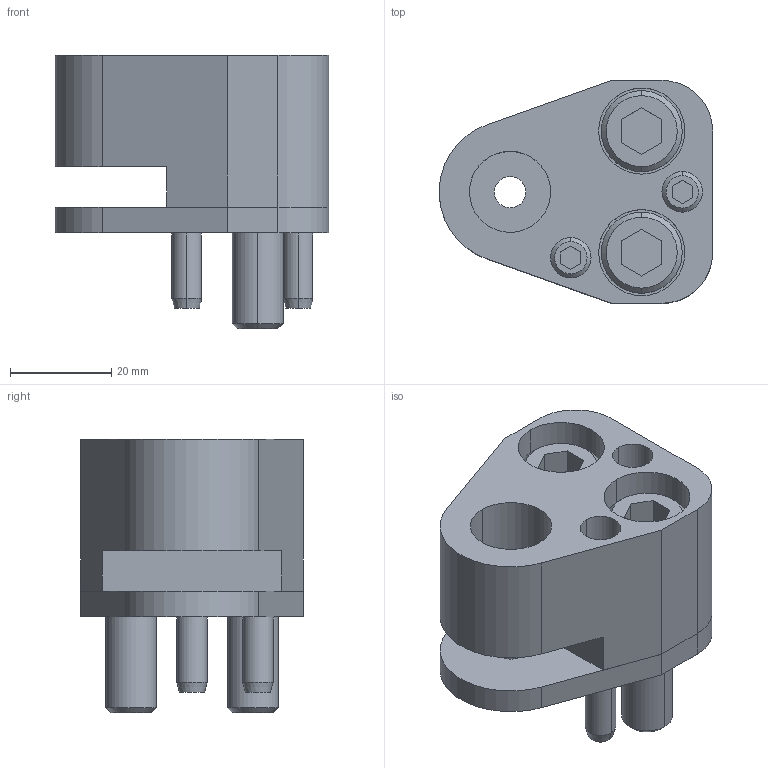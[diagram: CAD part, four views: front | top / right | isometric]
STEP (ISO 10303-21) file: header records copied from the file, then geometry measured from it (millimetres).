
FILE_DESCRIPTION(/* description */ (''),/* implementation_level */ '2;1');
FILE_NAME(/* name */ '3d_ap-fp16_02883_r00.stp',/* time_stamp */ '2011-01-10T14:17:45+09:00',/* author */ ('MISUMI'),/* organization */ (''),/* preprocessor_version */ 'ST-DEVELOPER v11',/* originating_system */ 'UGS - NX 5.0',/* authorisation */ '');
FILE_SCHEMA (('CONFIG_CONTROL_DESIGN'));
Length unit declared in the file: millimetre
Products named in the file (1): 3d_ap-fp16_02883_r00
Bounding box: 53.95 x 44 x 54 mm (x, y, z)
Volume: 55262 mm3; surface area: 23768.2 mm2
Topology: 8 solids, 8 shells, 154 faces, 350 edges, 225 vertices
Faces by surface type: plane 68, cylinder 60, cone 26
Entity records: 4496 total; most frequent: DIRECTION 802, CARTESIAN_POINT 783, ORIENTED_EDGE 700, EDGE_CURVE 350, AXIS2_PLACEMENT_3D 302, VERTEX_POINT 225, LINE 198, VECTOR 198
